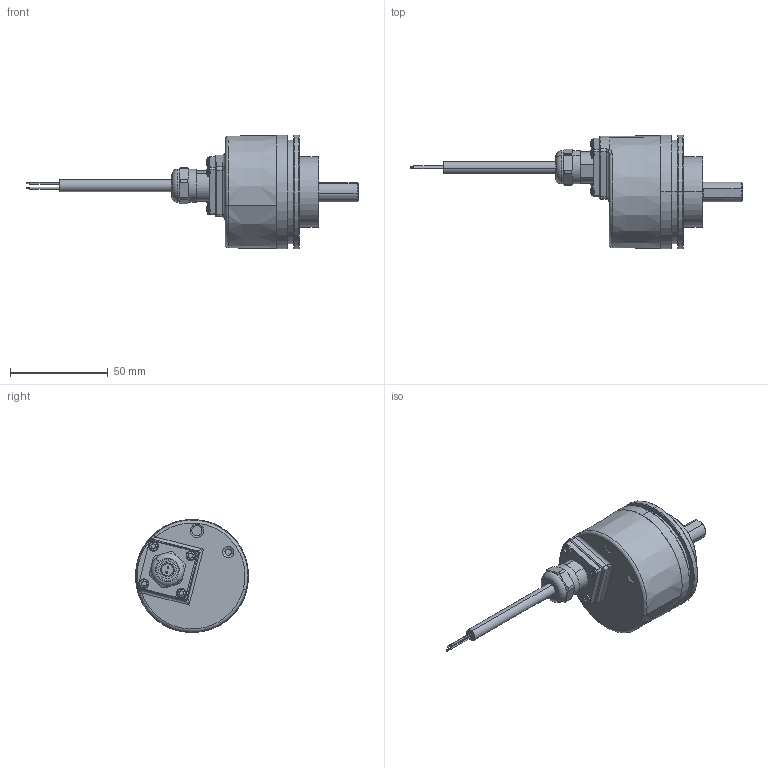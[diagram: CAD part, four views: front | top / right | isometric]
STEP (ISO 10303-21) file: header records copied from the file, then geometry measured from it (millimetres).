
FILE_DESCRIPTION (( 'STEP AP214' ), '1' );
FILE_NAME ('5814SIL.12X1.XXXX.STEP', '2010-07-22T06:26:40', ( 'admin' ), ( 'Fritz Kübler GmbH' ), 'SwSTEP 2.0', 'SolidWorks 2009', '' );
FILE_SCHEMA (( 'AUTOMOTIVE_DESIGN' ));
Length unit declared in the file: millimetre
Products named in the file (1): 5814SIL.12X1.XXXX
Bounding box: 170 x 58 x 58 mm (x, y, z)
Surface area: 21351.1 mm2 (no closed solid volume)
Topology: 0 solids, 12 shells, 256 faces, 638 edges, 403 vertices
Faces by surface type: plane 91, cylinder 74, cone 49, torus 28, sphere 8, bspline 6
Entity records: 11583 total; most frequent: CARTESIAN_POINT 2505, DIRECTION 1436, ORIENTED_EDGE 1180, EDGE_CURVE 636, AXIS2_PLACEMENT_3D 593, VERTEX_POINT 403, CIRCLE 342, EDGE_LOOP 291
